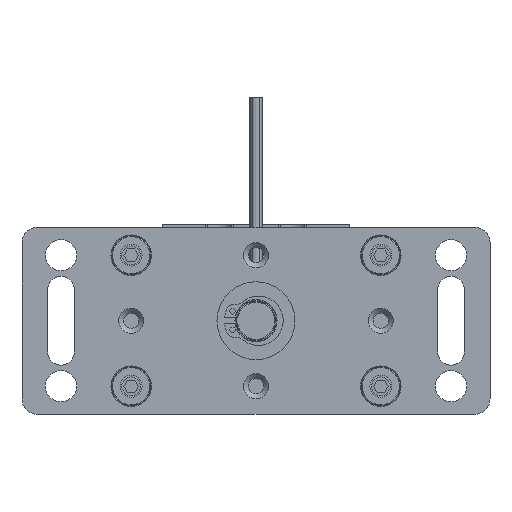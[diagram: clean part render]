
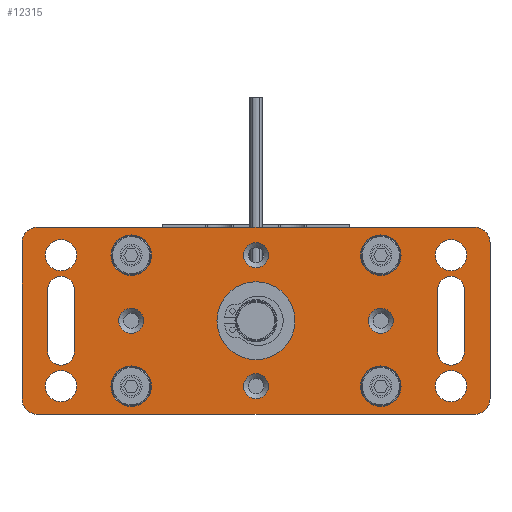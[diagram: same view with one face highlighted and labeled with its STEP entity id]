
A CAD part, front view. The second image highlights one B-rep face of the part: STEP entity #12315.
In plain terms, the highlighted planar face has unit normal (0, -1, 0).
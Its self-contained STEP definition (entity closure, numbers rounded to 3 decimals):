
#819=LINE('',#18026,#1484);
#820=LINE('',#18030,#1485);
#821=LINE('',#18037,#1486);
#822=LINE('',#18042,#1487);
#823=LINE('',#18046,#1488);
#824=LINE('',#18050,#1489);
#825=LINE('',#18073,#1490);
#826=LINE('',#18078,#1491);
#1484=VECTOR('',#14674,1000.);
#1485=VECTOR('',#14677,1000.);
#1486=VECTOR('',#14684,1000.);
#1487=VECTOR('',#14687,1000.);
#1488=VECTOR('',#14690,1000.);
#1489=VECTOR('',#14693,1000.);
#1490=VECTOR('',#14716,1000.);
#1491=VECTOR('',#14719,1000.);
#2629=ORIENTED_EDGE('',*,*,#5618,.F.);
#2630=ORIENTED_EDGE('',*,*,#5619,.F.);
#2631=ORIENTED_EDGE('',*,*,#5620,.F.);
#2632=ORIENTED_EDGE('',*,*,#5621,.F.);
#2633=ORIENTED_EDGE('',*,*,#5622,.F.);
#2634=ORIENTED_EDGE('',*,*,#5623,.T.);
#2635=ORIENTED_EDGE('',*,*,#5624,.F.);
#2636=ORIENTED_EDGE('',*,*,#5625,.T.);
#2637=ORIENTED_EDGE('',*,*,#5626,.T.);
#2638=ORIENTED_EDGE('',*,*,#5627,.T.);
#2639=ORIENTED_EDGE('',*,*,#5628,.T.);
#2640=ORIENTED_EDGE('',*,*,#5629,.T.);
#2641=ORIENTED_EDGE('',*,*,#5630,.T.);
#2642=ORIENTED_EDGE('',*,*,#5631,.T.);
#2643=ORIENTED_EDGE('',*,*,#5632,.T.);
#2644=ORIENTED_EDGE('',*,*,#5633,.F.);
#2645=ORIENTED_EDGE('',*,*,#5634,.T.);
#2646=ORIENTED_EDGE('',*,*,#5635,.F.);
#2647=ORIENTED_EDGE('',*,*,#5636,.F.);
#2648=ORIENTED_EDGE('',*,*,#5637,.F.);
#2649=ORIENTED_EDGE('',*,*,#5638,.F.);
#2650=ORIENTED_EDGE('',*,*,#5639,.T.);
#2651=ORIENTED_EDGE('',*,*,#5640,.T.);
#2652=ORIENTED_EDGE('',*,*,#5641,.T.);
#2653=ORIENTED_EDGE('',*,*,#5642,.T.);
#2654=ORIENTED_EDGE('',*,*,#5643,.T.);
#2655=ORIENTED_EDGE('',*,*,#5644,.T.);
#2656=ORIENTED_EDGE('',*,*,#5645,.T.);
#2657=ORIENTED_EDGE('',*,*,#5646,.T.);
#5618=EDGE_CURVE('',#7145,#7146,#8103,.T.);
#5619=EDGE_CURVE('',#7147,#7145,#819,.T.);
#5620=EDGE_CURVE('',#7148,#7147,#8104,.T.);
#5621=EDGE_CURVE('',#7146,#7148,#820,.T.);
#5622=EDGE_CURVE('',#7149,#7149,#8105,.T.);
#5623=EDGE_CURVE('',#7150,#7150,#8106,.T.);
#5624=EDGE_CURVE('',#7151,#7151,#8107,.T.);
#5625=EDGE_CURVE('',#7152,#7153,#821,.T.);
#5626=EDGE_CURVE('',#7153,#7154,#8108,.T.);
#5627=EDGE_CURVE('',#7154,#7155,#822,.T.);
#5628=EDGE_CURVE('',#7155,#7156,#8109,.T.);
#5629=EDGE_CURVE('',#7156,#7157,#823,.T.);
#5630=EDGE_CURVE('',#7157,#7158,#8110,.T.);
#5631=EDGE_CURVE('',#7158,#7159,#824,.T.);
#5632=EDGE_CURVE('',#7159,#7152,#8111,.T.);
#5633=EDGE_CURVE('',#7160,#7160,#8112,.T.);
#5634=EDGE_CURVE('',#7161,#7161,#8113,.T.);
#5635=EDGE_CURVE('',#7162,#7162,#8114,.T.);
#5636=EDGE_CURVE('',#7163,#7163,#8115,.T.);
#5637=EDGE_CURVE('',#7164,#7164,#8116,.T.);
#5638=EDGE_CURVE('',#7165,#7165,#8117,.T.);
#5639=EDGE_CURVE('',#7166,#7166,#8118,.F.);
#5640=EDGE_CURVE('',#7167,#7167,#8119,.F.);
#5641=EDGE_CURVE('',#7168,#7168,#8120,.F.);
#5642=EDGE_CURVE('',#7169,#7169,#8121,.F.);
#5643=EDGE_CURVE('',#7170,#7171,#825,.T.);
#5644=EDGE_CURVE('',#7171,#7172,#8122,.T.);
#5645=EDGE_CURVE('',#7172,#7173,#826,.T.);
#5646=EDGE_CURVE('',#7173,#7170,#8123,.T.);
#7145=VERTEX_POINT('',#18024);
#7146=VERTEX_POINT('',#18025);
#7147=VERTEX_POINT('',#18027);
#7148=VERTEX_POINT('',#18029);
#7149=VERTEX_POINT('',#18032);
#7150=VERTEX_POINT('',#18034);
#7151=VERTEX_POINT('',#18036);
#7152=VERTEX_POINT('',#18038);
#7153=VERTEX_POINT('',#18039);
#7154=VERTEX_POINT('',#18041);
#7155=VERTEX_POINT('',#18043);
#7156=VERTEX_POINT('',#18045);
#7157=VERTEX_POINT('',#18047);
#7158=VERTEX_POINT('',#18049);
#7159=VERTEX_POINT('',#18051);
#7160=VERTEX_POINT('',#18054);
#7161=VERTEX_POINT('',#18056);
#7162=VERTEX_POINT('',#18058);
#7163=VERTEX_POINT('',#18060);
#7164=VERTEX_POINT('',#18062);
#7165=VERTEX_POINT('',#18064);
#7166=VERTEX_POINT('',#18066);
#7167=VERTEX_POINT('',#18068);
#7168=VERTEX_POINT('',#18070);
#7169=VERTEX_POINT('',#18072);
#7170=VERTEX_POINT('',#18074);
#7171=VERTEX_POINT('',#18075);
#7172=VERTEX_POINT('',#18077);
#7173=VERTEX_POINT('',#18079);
#8103=CIRCLE('',#13183,4.25);
#8104=CIRCLE('',#13184,4.25);
#8105=CIRCLE('',#13185,12.5);
#8106=CIRCLE('',#13186,5.);
#8107=CIRCLE('',#13187,5.);
#8108=CIRCLE('',#13188,5.);
#8109=CIRCLE('',#13189,5.);
#8110=CIRCLE('',#13190,5.);
#8111=CIRCLE('',#13191,5.);
#8112=CIRCLE('',#13192,5.);
#8113=CIRCLE('',#13193,5.);
#8114=CIRCLE('',#13194,6.5);
#8115=CIRCLE('',#13195,6.5);
#8116=CIRCLE('',#13196,6.5);
#8117=CIRCLE('',#13197,6.5);
#8118=CIRCLE('',#13198,3.999);
#8119=CIRCLE('',#13199,3.999);
#8120=CIRCLE('',#13200,3.999);
#8121=CIRCLE('',#13201,3.999);
#8122=CIRCLE('',#13202,4.25);
#8123=CIRCLE('',#13203,4.25);
#8694=EDGE_LOOP('',(#2629,#2630,#2631,#2632));
#8695=EDGE_LOOP('',(#2633));
#8696=EDGE_LOOP('',(#2634));
#8697=EDGE_LOOP('',(#2635));
#8698=EDGE_LOOP('',(#2636,#2637,#2638,#2639,#2640,#2641,#2642,#2643));
#8699=EDGE_LOOP('',(#2644));
#8700=EDGE_LOOP('',(#2645));
#8701=EDGE_LOOP('',(#2646));
#8702=EDGE_LOOP('',(#2647));
#8703=EDGE_LOOP('',(#2648));
#8704=EDGE_LOOP('',(#2649));
#8705=EDGE_LOOP('',(#2650));
#8706=EDGE_LOOP('',(#2651));
#8707=EDGE_LOOP('',(#2652));
#8708=EDGE_LOOP('',(#2653));
#8709=EDGE_LOOP('',(#2654,#2655,#2656,#2657));
#9638=FACE_BOUND('',#8694,.T.);
#9639=FACE_BOUND('',#8695,.T.);
#9640=FACE_BOUND('',#8696,.T.);
#9641=FACE_BOUND('',#8697,.T.);
#9642=FACE_BOUND('',#8698,.T.);
#9643=FACE_BOUND('',#8699,.T.);
#9644=FACE_BOUND('',#8700,.T.);
#9645=FACE_BOUND('',#8701,.T.);
#9646=FACE_BOUND('',#8702,.T.);
#9647=FACE_BOUND('',#8703,.T.);
#9648=FACE_BOUND('',#8704,.T.);
#9649=FACE_BOUND('',#8705,.T.);
#9650=FACE_BOUND('',#8706,.T.);
#9651=FACE_BOUND('',#8707,.T.);
#9652=FACE_BOUND('',#8708,.T.);
#9653=FACE_BOUND('',#8709,.T.);
#10481=PLANE('',#13182);
#12315=ADVANCED_FACE('',(#9638,#9639,#9640,#9641,#9642,#9643,#9644,#9645,
#9646,#9647,#9648,#9649,#9650,#9651,#9652,#9653),#10481,.T.);
#13182=AXIS2_PLACEMENT_3D('',#18022,#14670,#14671);
#13183=AXIS2_PLACEMENT_3D('',#18023,#14672,#14673);
#13184=AXIS2_PLACEMENT_3D('',#18028,#14675,#14676);
#13185=AXIS2_PLACEMENT_3D('',#18031,#14678,#14679);
#13186=AXIS2_PLACEMENT_3D('',#18033,#14680,#14681);
#13187=AXIS2_PLACEMENT_3D('',#18035,#14682,#14683);
#13188=AXIS2_PLACEMENT_3D('',#18040,#14685,#14686);
#13189=AXIS2_PLACEMENT_3D('',#18044,#14688,#14689);
#13190=AXIS2_PLACEMENT_3D('',#18048,#14691,#14692);
#13191=AXIS2_PLACEMENT_3D('',#18052,#14694,#14695);
#13192=AXIS2_PLACEMENT_3D('',#18053,#14696,#14697);
#13193=AXIS2_PLACEMENT_3D('',#18055,#14698,#14699);
#13194=AXIS2_PLACEMENT_3D('',#18057,#14700,#14701);
#13195=AXIS2_PLACEMENT_3D('',#18059,#14702,#14703);
#13196=AXIS2_PLACEMENT_3D('',#18061,#14704,#14705);
#13197=AXIS2_PLACEMENT_3D('',#18063,#14706,#14707);
#13198=AXIS2_PLACEMENT_3D('',#18065,#14708,#14709);
#13199=AXIS2_PLACEMENT_3D('',#18067,#14710,#14711);
#13200=AXIS2_PLACEMENT_3D('',#18069,#14712,#14713);
#13201=AXIS2_PLACEMENT_3D('',#18071,#14714,#14715);
#13202=AXIS2_PLACEMENT_3D('',#18076,#14717,#14718);
#13203=AXIS2_PLACEMENT_3D('',#18080,#14720,#14721);
#14670=DIRECTION('',(0.,-1.,0.));
#14671=DIRECTION('',(0.,0.,-1.));
#14672=DIRECTION('',(0.,-1.,0.));
#14673=DIRECTION('',(1.,0.,0.));
#14674=DIRECTION('',(0.,0.,1.));
#14675=DIRECTION('',(0.,-1.,0.));
#14676=DIRECTION('',(-1.,0.,0.));
#14677=DIRECTION('',(0.,0.,-1.));
#14678=DIRECTION('',(0.,-1.,0.));
#14679=DIRECTION('',(0.,0.,-1.));
#14680=DIRECTION('',(0.,1.,0.));
#14681=DIRECTION('',(1.,0.,0.));
#14682=DIRECTION('',(0.,-1.,0.));
#14683=DIRECTION('',(1.,0.,0.));
#14684=DIRECTION('',(0.,0.,1.));
#14685=DIRECTION('',(0.,-1.,0.));
#14686=DIRECTION('',(0.,0.,-1.));
#14687=DIRECTION('',(-1.,0.,0.));
#14688=DIRECTION('',(0.,-1.,0.));
#14689=DIRECTION('',(0.,0.,-1.));
#14690=DIRECTION('',(0.,0.,-1.));
#14691=DIRECTION('',(0.,-1.,0.));
#14692=DIRECTION('',(0.,0.,-1.));
#14693=DIRECTION('',(1.,0.,0.));
#14694=DIRECTION('',(0.,-1.,0.));
#14695=DIRECTION('',(0.,0.,-1.));
#14696=DIRECTION('',(0.,-1.,0.));
#14697=DIRECTION('',(1.,0.,0.));
#14698=DIRECTION('',(0.,1.,0.));
#14699=DIRECTION('',(1.,0.,0.));
#14700=DIRECTION('',(0.,-1.,0.));
#14701=DIRECTION('',(1.,0.,0.));
#14702=DIRECTION('',(0.,-1.,0.));
#14703=DIRECTION('',(0.,0.,-1.));
#14704=DIRECTION('',(0.,-1.,0.));
#14705=DIRECTION('',(0.,0.,-1.));
#14706=DIRECTION('',(0.,-1.,0.));
#14707=DIRECTION('',(0.,0.,-1.));
#14708=DIRECTION('',(0.,-1.,0.));
#14709=DIRECTION('',(0.,0.,-1.));
#14710=DIRECTION('',(0.,-1.,0.));
#14711=DIRECTION('',(0.,0.,-1.));
#14712=DIRECTION('',(0.,-1.,0.));
#14713=DIRECTION('',(0.,0.,-1.));
#14714=DIRECTION('',(0.,-1.,0.));
#14715=DIRECTION('',(0.,0.,-1.));
#14716=DIRECTION('',(0.,0.,1.));
#14717=DIRECTION('',(0.,1.,0.));
#14718=DIRECTION('',(-1.,0.,0.));
#14719=DIRECTION('',(0.,0.,-1.));
#14720=DIRECTION('',(0.,1.,0.));
#14721=DIRECTION('',(1.,0.,0.));
#18022=CARTESIAN_POINT('',(-75.,0.,-30.));
#18023=CARTESIAN_POINT('',(-62.5,0.,10.));
#18024=CARTESIAN_POINT('',(-58.25,0.,10.));
#18025=CARTESIAN_POINT('',(-66.75,0.,10.));
#18026=CARTESIAN_POINT('',(-58.25,0.,10.));
#18027=CARTESIAN_POINT('',(-58.25,0.,-10.));
#18028=CARTESIAN_POINT('',(-62.5,0.,-10.));
#18029=CARTESIAN_POINT('',(-66.75,0.,-10.));
#18030=CARTESIAN_POINT('',(-66.75,0.,10.));
#18031=CARTESIAN_POINT('',(0.,0.,0.));
#18032=CARTESIAN_POINT('',(0.,0.,-12.5));
#18033=CARTESIAN_POINT('',(62.5,0.,-21.));
#18034=CARTESIAN_POINT('',(67.5,0.,-21.));
#18035=CARTESIAN_POINT('',(62.5,0.,21.));
#18036=CARTESIAN_POINT('',(67.5,0.,21.));
#18037=CARTESIAN_POINT('',(75.,0.,-30.));
#18038=CARTESIAN_POINT('',(75.,0.,-25.));
#18039=CARTESIAN_POINT('',(75.,0.,25.));
#18040=CARTESIAN_POINT('',(70.,0.,25.));
#18041=CARTESIAN_POINT('',(70.,0.,30.));
#18042=CARTESIAN_POINT('',(75.,0.,30.));
#18043=CARTESIAN_POINT('',(-70.,0.,30.));
#18044=CARTESIAN_POINT('',(-70.,0.,25.));
#18045=CARTESIAN_POINT('',(-75.,0.,25.));
#18046=CARTESIAN_POINT('',(-75.,0.,30.));
#18047=CARTESIAN_POINT('',(-75.,0.,-25.));
#18048=CARTESIAN_POINT('',(-70.,0.,-25.));
#18049=CARTESIAN_POINT('',(-70.,0.,-30.));
#18050=CARTESIAN_POINT('',(-75.,0.,-30.));
#18051=CARTESIAN_POINT('',(70.,0.,-30.));
#18052=CARTESIAN_POINT('',(70.,0.,-25.));
#18053=CARTESIAN_POINT('',(-62.5,0.,-21.));
#18054=CARTESIAN_POINT('',(-57.5,0.,-21.));
#18055=CARTESIAN_POINT('',(-62.5,0.,21.));
#18056=CARTESIAN_POINT('',(-57.5,0.,21.));
#18057=CARTESIAN_POINT('',(40.,0.,21.));
#18058=CARTESIAN_POINT('',(46.5,0.,21.));
#18059=CARTESIAN_POINT('',(40.,0.,-21.));
#18060=CARTESIAN_POINT('',(40.,0.,-27.5));
#18061=CARTESIAN_POINT('',(-40.,0.,21.));
#18062=CARTESIAN_POINT('',(-40.,0.,14.5));
#18063=CARTESIAN_POINT('',(-40.,0.,-21.));
#18064=CARTESIAN_POINT('',(-40.,0.,-27.5));
#18065=CARTESIAN_POINT('',(40.,0.,0.));
#18066=CARTESIAN_POINT('',(40.,0.,-3.999));
#18067=CARTESIAN_POINT('',(0.,0.,21.));
#18068=CARTESIAN_POINT('',(0.,0.,17.002));
#18069=CARTESIAN_POINT('',(-40.,0.,0.));
#18070=CARTESIAN_POINT('',(-40.,0.,-3.999));
#18071=CARTESIAN_POINT('',(0.,0.,-21.));
#18072=CARTESIAN_POINT('',(0.,0.,-24.999));
#18073=CARTESIAN_POINT('',(58.25,0.,10.));
#18074=CARTESIAN_POINT('',(58.25,0.,-10.));
#18075=CARTESIAN_POINT('',(58.25,0.,10.));
#18076=CARTESIAN_POINT('',(62.5,0.,10.));
#18077=CARTESIAN_POINT('',(66.75,0.,10.));
#18078=CARTESIAN_POINT('',(66.75,0.,10.));
#18079=CARTESIAN_POINT('',(66.75,0.,-10.));
#18080=CARTESIAN_POINT('',(62.5,0.,-10.));
